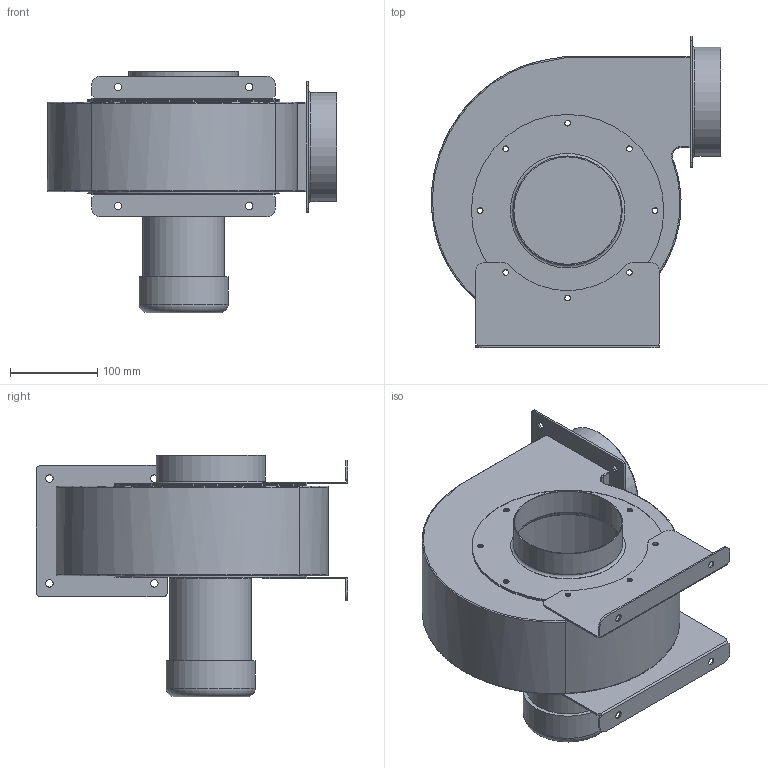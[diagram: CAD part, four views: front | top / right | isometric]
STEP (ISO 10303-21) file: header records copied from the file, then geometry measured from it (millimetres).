
FILE_DESCRIPTION(/* description */ ('Unknown'),/* implementation_level */ '2;1');
FILE_NAME(/* name */ 'CYT180A2PY-EG 型錄',/* time_stamp */ '2026-05-14T17:29:22+08:00',/* author */ ('Unknown'),/* organization */ ('Unknown'),/* preprocessor_version */ 'ST-DEVELOPER v20',/* originating_system */ 'Solid Edge',/* authorisation */ 'Unknown');
FILE_SCHEMA (('AUTOMOTIVE_DESIGN {1 0 10303 214 3 1 1}'));
Length unit declared in the file: millimetre
Products named in the file (5): CYT180A2PY-EG «¬î/ˆ; CY180-01-TBA-A; CY180-04-5''; CY180M-07; CYT180-06V + JM120A2Pa-EG
Assembly tree (4 placements, depth 2):
  CYT180A2PY-EG «¬î/ˆ
    CY180-01-TBA-A
    CY180M-07  x2
    CYT180-06V + JM120A2Pa-EG
  CY180-04-5''
Bounding box: 330.79 x 356.2 x 276.3 mm (x, y, z)
Volume: 6146762.8 mm3; surface area: 664935.4 mm2
Topology: 6 solids, 6 shells, 153 faces, 391 edges, 256 vertices
Faces by surface type: cylinder 82, plane 55, bspline 9, torus 7
Full cylindrical faces by diameter (mm): 6.5 x38, 8.5 x8, 93.6 x1, 102.4 x1, 122.8 x1, 123 x1, 124.8 x1, 125 x1, 131 x1, 186 x1, 220 x3
Entity records: 4350 total; most frequent: CARTESIAN_POINT 1304, DIRECTION 616, ORIENTED_EDGE 482, EDGE_LOOP 274, FACE_BOUND 274, AXIS2_PLACEMENT_3D 269, EDGE_CURVE 241, VERTEX_POINT 191
